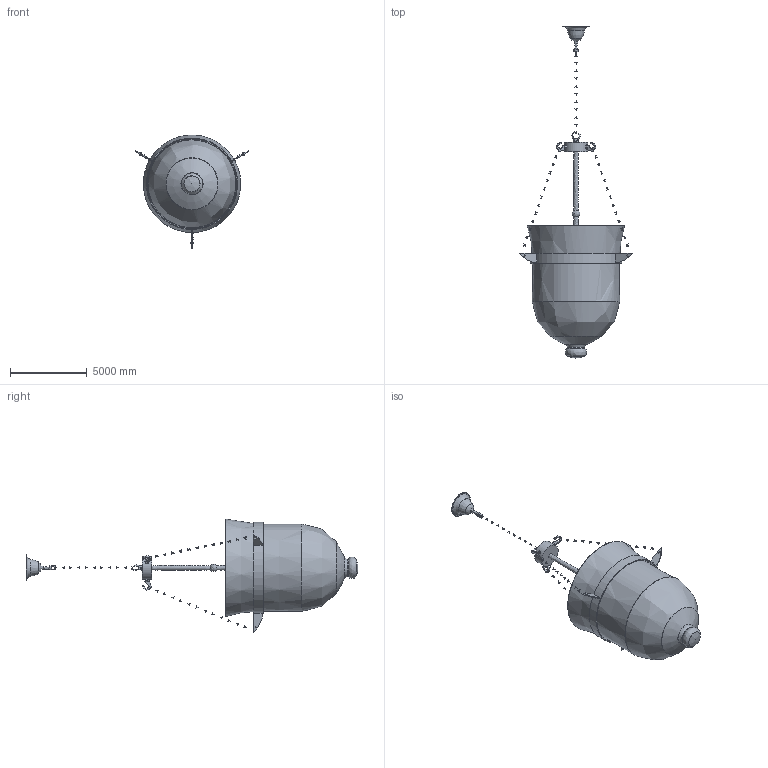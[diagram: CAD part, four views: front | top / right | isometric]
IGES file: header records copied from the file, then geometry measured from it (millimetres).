
Global section: file name: Golva Pendant Light; native system: AutoCAD 2022 - 简体中文 (Simplified Chinese),62HAuto; preprocessor: desk Translation Framework DWG producer (atf_dwg_producer); organization: unknown; date: 20250706.152717; units: inch
Bounding box: 7376.26 x 21626.35 x 7416.74 mm (x, y, z)
Volume: 10138687051.8 mm3; surface area: 416302899 mm2
Topology: 83 solids, 83 shells, 559 faces, 1292 edges, 804 vertices
Faces by surface type: bspline 559
